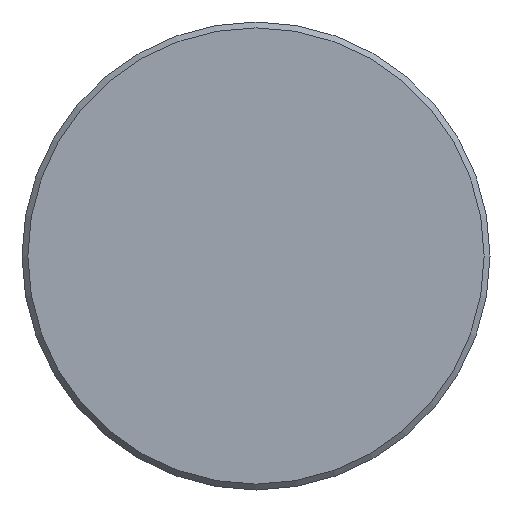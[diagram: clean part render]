
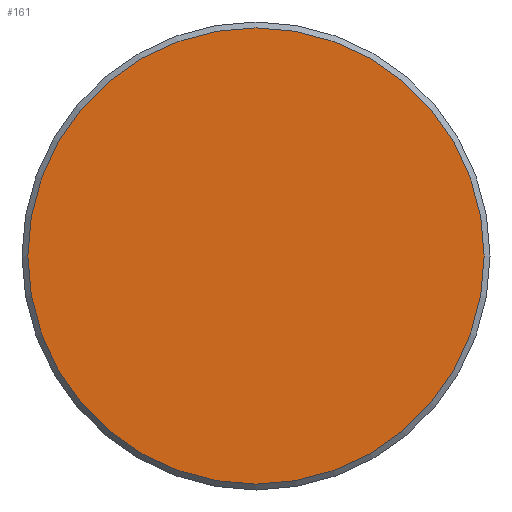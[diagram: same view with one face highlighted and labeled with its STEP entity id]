
A CAD part, front view. The second image highlights one B-rep face of the part: STEP entity #161.
In plain terms, the highlighted planar face has unit normal (0, -1, 0).
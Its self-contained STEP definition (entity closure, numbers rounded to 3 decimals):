
#161 = ADVANCED_FACE( '', ( #320 ), #321, .F. );
#320 = FACE_OUTER_BOUND( '', #502, .T. );
#321 = PLANE( '', #503 );
#502 = EDGE_LOOP( '', ( #736 ) );
#503 = AXIS2_PLACEMENT_3D( '', #737, #738, #739 );
#736 = ORIENTED_EDGE( '', *, *, #1068, .T. );
#737 = CARTESIAN_POINT( '', ( 19.5, 0., 0. ) );
#738 = DIRECTION( '', ( 0., 1., 0. ) );
#739 = DIRECTION( '', ( 0., 0., 1. ) );
#1068 = EDGE_CURVE( '', #1248, #1248, #1249, .T. );
#1248 = VERTEX_POINT( '', #1578 );
#1249 = CIRCLE( '', #1579, 19.5 );
#1578 = CARTESIAN_POINT( '', ( 0., 0., -19.5 ) );
#1579 = AXIS2_PLACEMENT_3D( '', #1884, #1885, #1886 );
#1884 = CARTESIAN_POINT( '', ( 0., 0., 0. ) );
#1885 = DIRECTION( '', ( 0., -1., 0. ) );
#1886 = DIRECTION( '', ( 0., 0., -1. ) );
